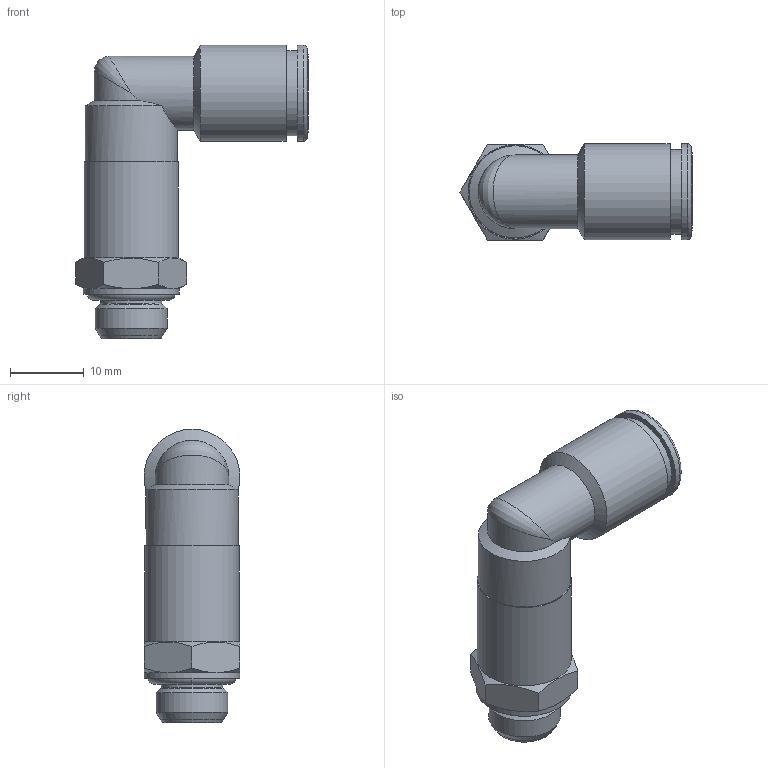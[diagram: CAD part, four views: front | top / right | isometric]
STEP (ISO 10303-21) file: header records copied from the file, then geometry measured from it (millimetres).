
FILE_DESCRIPTION(('Bauteilbeschreibung','HiCAD-Model','HiCAD-STEP-TRANSLATION','Bauteilbeschreibung'),'2;1');
FILE_NAME('B:/ABGLEICH/ZEICHNUNGEN/STEP FÜR INTERNET/STEP/IPSO 026/202605_IPSO_026_8_1-8.STP','2012-02-20T14:55:40+00:00',('Konstrukteur'),('Konstrukteur Firma GmbH'),' HiCAD neXt 2008, Step 3.1.1401.2J ','HiCAD neXt 2008','confidential');
FILE_SCHEMA(('AUTOMOTIVE_DESIGN { 1 2 10303 214 0 1 1 1 }'));
Length unit declared in the file: millimetre
Products named in the file (7): A02605_IPSO_026_8_1_8; OR 7_2X1_9; DR8_1_NEU; R202205_N1_N2; A14612_N2; A146120N2; G 1_8
Assembly tree (6 placements, depth 3):
  A02605_IPSO_026_8_1_8
    OR 7_2X1_9
    DR8_1_NEU
    R202205_N1_N2
    A14612_N2
    A146120N2
      G 1_8
Bounding box: 31.51 x 13 x 39.8 mm (x, y, z)
Volume: 4221.7 mm3; surface area: 5166.5 mm2
Topology: 5 solids, 5 shells, 79 faces, 172 edges, 103 vertices
Faces by surface type: cone 28, cylinder 24, plane 19, torus 7, bspline 1
Full cylindrical faces by diameter (mm): 5.5 x1, 7 x1, 8.1 x1, 8.2 x1, 8.3 x1, 8.566 x2, 9 x2, 9.728 x1, 10 x1, 10.1 x3, 11 x1, 11.5 x1, 11.6 x1, 12.5 x1, 12.8 x1, 13 x3
Entity records: 3827 total; most frequent: CARTESIAN_POINT 1720, DIRECTION 338, ORIENTED_EDGE 228, AXIS2_PLACEMENT_3D 165, EDGE_LOOP 135, EDGE_CURVE 114, COLOUR_RGB 98, PRESENTATION_STYLE_ASSIGNMENT 98
